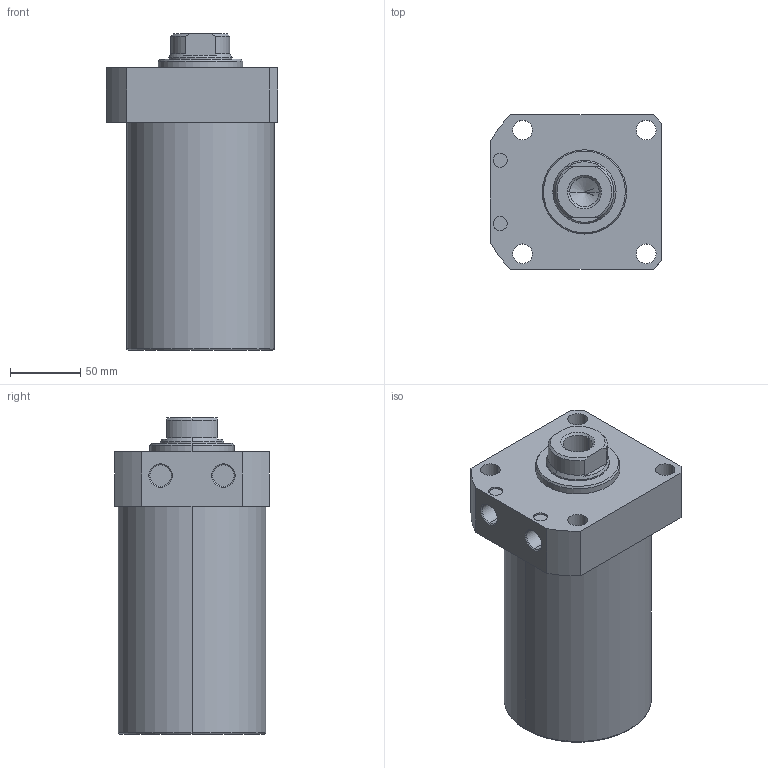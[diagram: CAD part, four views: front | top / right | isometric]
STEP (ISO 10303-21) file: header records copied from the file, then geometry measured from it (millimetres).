
FILE_DESCRIPTION (( 'STEP AP203' ), '1' );
FILE_NAME ('CLLR-105CA-115.STEP', '2019-12-18T07:11:51', ( '' ), ( '' ), 'SwSTEP 2.0', 'SolidWorks 2015', '' );
FILE_SCHEMA (( 'CONFIG_CONTROL_DESIGN' ));
Length unit declared in the file: millimetre
Products named in the file (1): CLLR-105CA-115
Bounding box: 122 x 110 x 225 mm (x, y, z)
Volume: 1899918.9 mm3; surface area: 112023.7 mm2
Topology: 1 solids, 1 shells, 65 faces, 153 edges, 96 vertices
Faces by surface type: cylinder 29, plane 19, cone 15, torus 2
Entity records: 1971 total; most frequent: DIRECTION 352, CARTESIAN_POINT 337, ORIENTED_EDGE 302, EDGE_CURVE 151, AXIS2_PLACEMENT_3D 143, VERTEX_POINT 96, EDGE_LOOP 81, CIRCLE 77
